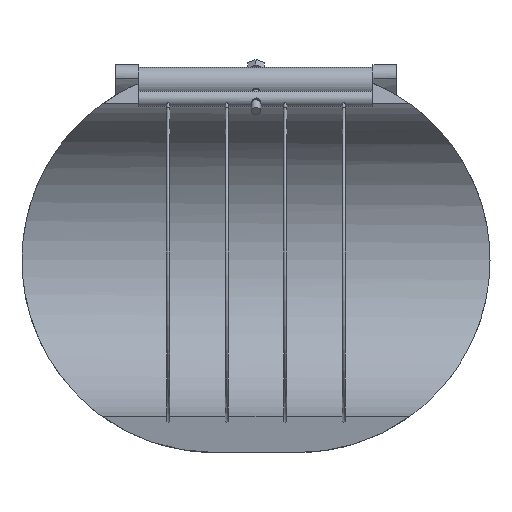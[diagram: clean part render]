
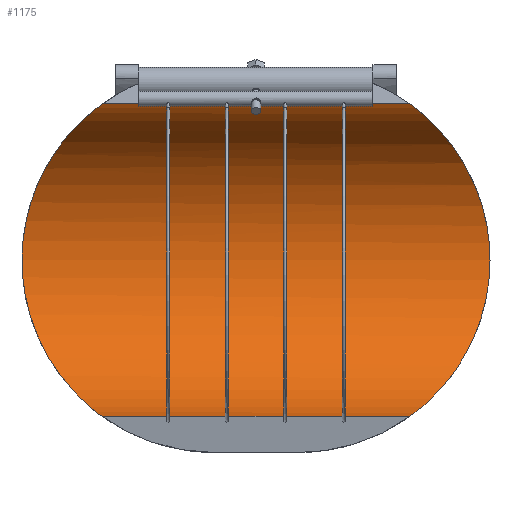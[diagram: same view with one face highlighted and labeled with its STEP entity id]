
A CAD part, front view. The second image highlights one B-rep face of the part: STEP entity #1175.
In plain terms, the highlighted cylindrical face has radius 100 mm (diameter 200 mm), a partial arc.
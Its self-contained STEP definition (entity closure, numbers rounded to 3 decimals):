
#127=FACE_OUTER_BOUND('',#207,.T.);
#207=EDGE_LOOP('',(#1046,#1047,#1048,#1049,#1050,#1051,#1052,#1053,#1054,
#1055));
#258=B_SPLINE_CURVE_WITH_KNOTS('',3,(#2650,#2651,#2652,#2653,#2654,#2655,
#2656,#2657,#2658,#2659,#2660,#2661,#2662,#2663,#2664,#2665,#2666,#2667),
 .UNSPECIFIED.,.F.,.F.,(4,2,2,2,2,2,2,2,4),(34.319,34.624,
36.698,38.771,40.845,42.84,44.835,
46.83,48.825),.UNSPECIFIED.);
#259=B_SPLINE_CURVE_WITH_KNOTS('',3,(#2668,#2669,#2670,#2671,#2672,#2673,
#2674,#2675,#2676,#2677,#2678,#2679,#2680,#2681,#2682,#2683,#2684,#2685),
 .UNSPECIFIED.,.F.,.F.,(4,2,2,2,2,2,2,2,4),(48.825,50.82,
52.815,54.81,56.805,58.879,60.953,
63.027,63.331),.UNSPECIFIED.);
#264=B_SPLINE_CURVE_WITH_KNOTS('',3,(#2797,#2798,#2799,#2800,#2801,#2802,
#2803,#2804,#2805,#2806,#2807,#2808,#2809,#2810,#2811,#2812,#2813,#2814),
 .UNSPECIFIED.,.F.,.F.,(4,2,2,2,2,2,2,2,4),(1.769,2.074,
4.147,6.221,8.295,10.29,12.285,
14.28,16.275),.UNSPECIFIED.);
#265=B_SPLINE_CURVE_WITH_KNOTS('',3,(#2816,#2817,#2818,#2819,#2820,#2821,
#2822,#2823,#2824,#2825,#2826,#2827,#2828,#2829,#2830,#2831,#2832,#2833),
 .UNSPECIFIED.,.F.,.F.,(4,2,2,2,2,2,2,2,4),(16.275,18.27,
20.265,22.26,24.255,26.329,28.403,
30.476,30.781),.UNSPECIFIED.);
#338=LINE('',#1953,#399);
#339=LINE('',#1956,#400);
#340=LINE('',#1959,#401);
#341=LINE('',#1961,#402);
#342=LINE('',#1962,#403);
#386=LINE('',#2875,#447);
#399=VECTOR('',#1376,10.);
#400=VECTOR('',#1379,10.);
#401=VECTOR('',#1382,10.);
#402=VECTOR('',#1385,10.);
#403=VECTOR('',#1386,10.);
#447=VECTOR('',#1622,10.);
#473=VERTEX_POINT('',#1941);
#475=VERTEX_POINT('',#1946);
#477=VERTEX_POINT('',#1950);
#478=VERTEX_POINT('',#1952);
#479=VERTEX_POINT('',#1955);
#480=VERTEX_POINT('',#1958);
#550=VERTEX_POINT('',#2647);
#551=VERTEX_POINT('',#2649);
#556=VERTEX_POINT('',#2796);
#557=VERTEX_POINT('',#2815);
#596=EDGE_CURVE('',#478,#477,#338,.T.);
#598=EDGE_CURVE('',#479,#478,#339,.T.);
#600=EDGE_CURVE('',#480,#479,#340,.T.);
#602=EDGE_CURVE('',#473,#480,#341,.T.);
#603=EDGE_CURVE('',#475,#473,#342,.T.);
#719=EDGE_CURVE('',#550,#551,#258,.T.);
#720=EDGE_CURVE('',#551,#477,#259,.T.);
#725=EDGE_CURVE('',#475,#556,#264,.T.);
#726=EDGE_CURVE('',#556,#557,#265,.T.);
#730=EDGE_CURVE('',#550,#557,#386,.T.);
#1046=ORIENTED_EDGE('',*,*,#725,.F.);
#1047=ORIENTED_EDGE('',*,*,#603,.T.);
#1048=ORIENTED_EDGE('',*,*,#602,.T.);
#1049=ORIENTED_EDGE('',*,*,#600,.T.);
#1050=ORIENTED_EDGE('',*,*,#598,.T.);
#1051=ORIENTED_EDGE('',*,*,#596,.T.);
#1052=ORIENTED_EDGE('',*,*,#720,.F.);
#1053=ORIENTED_EDGE('',*,*,#719,.F.);
#1054=ORIENTED_EDGE('',*,*,#730,.T.);
#1055=ORIENTED_EDGE('',*,*,#726,.F.);
#1116=CYLINDRICAL_SURFACE('',#1319,100.);
#1175=ADVANCED_FACE('',(#127),#1116,.F.);
#1319=AXIS2_PLACEMENT_3D('',#2874,#1620,#1621);
#1376=DIRECTION('',(1.,0.,0.));
#1379=DIRECTION('',(1.,0.,0.));
#1382=DIRECTION('',(1.,0.,0.));
#1385=DIRECTION('',(1.,0.,0.));
#1386=DIRECTION('',(1.,0.,0.));
#1620=DIRECTION('center_axis',(1.,0.,0.));
#1621=DIRECTION('ref_axis',(0.,1.,0.));
#1622=DIRECTION('',(-1.,0.,0.));
#1941=CARTESIAN_POINT('',(-55.313,17.365,-98.481));
#1946=CARTESIAN_POINT('',(-96.968,17.365,-98.481));
#1950=CARTESIAN_POINT('',(96.968,17.365,-98.481));
#1952=CARTESIAN_POINT('',(55.313,17.365,-98.481));
#1953=CARTESIAN_POINT('',(0.,17.365,-98.481));
#1955=CARTESIAN_POINT('',(18.438,17.365,-98.481));
#1956=CARTESIAN_POINT('',(0.,17.365,-98.481));
#1958=CARTESIAN_POINT('',(-18.438,17.365,-98.481));
#1959=CARTESIAN_POINT('',(0.,17.365,-98.481));
#1961=CARTESIAN_POINT('',(0.,17.365,-98.481));
#1962=CARTESIAN_POINT('',(0.,17.365,-98.481));
#2647=CARTESIAN_POINT('',(96.968,17.365,98.481));
#2649=CARTESIAN_POINT('',(147.5,100.,0.));
#2650=CARTESIAN_POINT('Ctrl Pts',(96.968,17.365,98.481));
#2651=CARTESIAN_POINT('Ctrl Pts',(97.207,18.337,98.309));
#2652=CARTESIAN_POINT('Ctrl Pts',(97.464,19.305,98.124));
#2653=CARTESIAN_POINT('Ctrl Pts',(99.597,26.828,96.567));
#2654=CARTESIAN_POINT('Ctrl Pts',(102.223,33.158,94.569));
#2655=CARTESIAN_POINT('Ctrl Pts',(108.192,45.186,89.448));
#2656=CARTESIAN_POINT('Ctrl Pts',(111.532,50.889,86.32));
#2657=CARTESIAN_POINT('Ctrl Pts',(118.243,61.474,79.132));
#2658=CARTESIAN_POINT('Ctrl Pts',(121.612,66.352,75.069));
#2659=CARTESIAN_POINT('Ctrl Pts',(127.753,74.903,66.518));
#2660=CARTESIAN_POINT('Ctrl Pts',(130.77,78.923,61.741));
#2661=CARTESIAN_POINT('Ctrl Pts',(136.325,86.143,51.188));
#2662=CARTESIAN_POINT('Ctrl Pts',(138.86,89.344,45.41));
#2663=CARTESIAN_POINT('Ctrl Pts',(143.056,94.577,33.161));
#2664=CARTESIAN_POINT('Ctrl Pts',(144.72,96.614,26.675));
#2665=CARTESIAN_POINT('Ctrl Pts',(146.942,99.326,13.42));
#2666=CARTESIAN_POINT('Ctrl Pts',(147.5,100.,6.65));
#2667=CARTESIAN_POINT('Ctrl Pts',(147.5,100.,0.));
#2668=CARTESIAN_POINT('Ctrl Pts',(147.5,100.,0.));
#2669=CARTESIAN_POINT('Ctrl Pts',(147.5,100.,-6.65));
#2670=CARTESIAN_POINT('Ctrl Pts',(146.942,99.326,-13.42));
#2671=CARTESIAN_POINT('Ctrl Pts',(144.72,96.614,-26.675));
#2672=CARTESIAN_POINT('Ctrl Pts',(143.056,94.577,-33.161));
#2673=CARTESIAN_POINT('Ctrl Pts',(138.86,89.344,-45.41));
#2674=CARTESIAN_POINT('Ctrl Pts',(136.325,86.143,-51.188));
#2675=CARTESIAN_POINT('Ctrl Pts',(130.77,78.923,-61.741));
#2676=CARTESIAN_POINT('Ctrl Pts',(127.753,74.903,-66.518));
#2677=CARTESIAN_POINT('Ctrl Pts',(121.612,66.352,-75.069));
#2678=CARTESIAN_POINT('Ctrl Pts',(118.243,61.474,-79.132));
#2679=CARTESIAN_POINT('Ctrl Pts',(111.532,50.889,-86.32));
#2680=CARTESIAN_POINT('Ctrl Pts',(108.192,45.186,-89.448));
#2681=CARTESIAN_POINT('Ctrl Pts',(102.223,33.158,-94.569));
#2682=CARTESIAN_POINT('Ctrl Pts',(99.597,26.828,-96.567));
#2683=CARTESIAN_POINT('Ctrl Pts',(97.464,19.305,-98.124));
#2684=CARTESIAN_POINT('Ctrl Pts',(97.207,18.337,-98.309));
#2685=CARTESIAN_POINT('Ctrl Pts',(96.968,17.365,-98.481));
#2796=CARTESIAN_POINT('',(-147.5,100.,0.));
#2797=CARTESIAN_POINT('Ctrl Pts',(-96.968,17.365,-98.481));
#2798=CARTESIAN_POINT('Ctrl Pts',(-97.207,18.337,-98.309));
#2799=CARTESIAN_POINT('Ctrl Pts',(-97.464,19.305,-98.124));
#2800=CARTESIAN_POINT('Ctrl Pts',(-99.597,26.828,-96.567));
#2801=CARTESIAN_POINT('Ctrl Pts',(-102.223,33.158,-94.569));
#2802=CARTESIAN_POINT('Ctrl Pts',(-108.192,45.186,-89.448));
#2803=CARTESIAN_POINT('Ctrl Pts',(-111.532,50.889,-86.32));
#2804=CARTESIAN_POINT('Ctrl Pts',(-118.243,61.474,-79.132));
#2805=CARTESIAN_POINT('Ctrl Pts',(-121.612,66.352,-75.069));
#2806=CARTESIAN_POINT('Ctrl Pts',(-127.753,74.903,-66.518));
#2807=CARTESIAN_POINT('Ctrl Pts',(-130.77,78.923,-61.741));
#2808=CARTESIAN_POINT('Ctrl Pts',(-136.325,86.143,-51.188));
#2809=CARTESIAN_POINT('Ctrl Pts',(-138.86,89.344,-45.41));
#2810=CARTESIAN_POINT('Ctrl Pts',(-143.056,94.577,-33.161));
#2811=CARTESIAN_POINT('Ctrl Pts',(-144.72,96.614,-26.675));
#2812=CARTESIAN_POINT('Ctrl Pts',(-146.942,99.326,-13.42));
#2813=CARTESIAN_POINT('Ctrl Pts',(-147.5,100.,-6.65));
#2814=CARTESIAN_POINT('Ctrl Pts',(-147.5,100.,0.));
#2815=CARTESIAN_POINT('',(-96.968,17.365,98.481));
#2816=CARTESIAN_POINT('Ctrl Pts',(-147.5,100.,0.));
#2817=CARTESIAN_POINT('Ctrl Pts',(-147.5,100.,6.65));
#2818=CARTESIAN_POINT('Ctrl Pts',(-146.942,99.326,13.42));
#2819=CARTESIAN_POINT('Ctrl Pts',(-144.72,96.614,26.675));
#2820=CARTESIAN_POINT('Ctrl Pts',(-143.056,94.577,33.161));
#2821=CARTESIAN_POINT('Ctrl Pts',(-138.86,89.344,45.41));
#2822=CARTESIAN_POINT('Ctrl Pts',(-136.325,86.143,51.188));
#2823=CARTESIAN_POINT('Ctrl Pts',(-130.77,78.923,61.741));
#2824=CARTESIAN_POINT('Ctrl Pts',(-127.753,74.903,66.518));
#2825=CARTESIAN_POINT('Ctrl Pts',(-121.612,66.352,75.069));
#2826=CARTESIAN_POINT('Ctrl Pts',(-118.243,61.474,79.132));
#2827=CARTESIAN_POINT('Ctrl Pts',(-111.532,50.889,86.32));
#2828=CARTESIAN_POINT('Ctrl Pts',(-108.192,45.186,89.448));
#2829=CARTESIAN_POINT('Ctrl Pts',(-102.223,33.158,94.569));
#2830=CARTESIAN_POINT('Ctrl Pts',(-99.597,26.828,96.567));
#2831=CARTESIAN_POINT('Ctrl Pts',(-97.464,19.305,98.124));
#2832=CARTESIAN_POINT('Ctrl Pts',(-97.207,18.337,98.309));
#2833=CARTESIAN_POINT('Ctrl Pts',(-96.968,17.365,98.481));
#2874=CARTESIAN_POINT('Origin',(0.,0.,0.));
#2875=CARTESIAN_POINT('',(0.,17.365,98.481));
